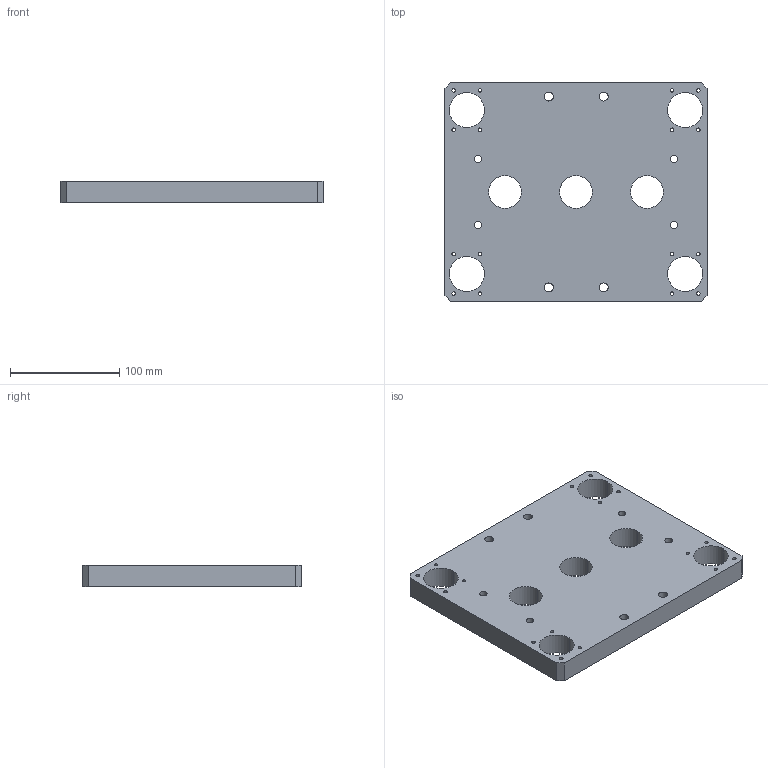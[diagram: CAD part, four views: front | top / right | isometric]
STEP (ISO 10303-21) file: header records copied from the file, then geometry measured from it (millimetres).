
FILE_DESCRIPTION (( 'STEP AP203' ), '1' );
FILE_NAME ('桌面注塑机X动模板.STEP', '2026-06-08T17:32:23', ( 'Windows User' ), ( 'P R C' ), 'SwSTEP 2.0', 'SolidWorks 2025', '' );
FILE_SCHEMA (( 'CONFIG_CONTROL_DESIGN' ));
Length unit declared in the file: millimetre
Products named in the file (1): 桌面注塑机X动模板
Bounding box: 240 x 200 x 20 mm (x, y, z)
Volume: 842544.9 mm3; surface area: 122304.4 mm2
Topology: 1 solids, 1 shells, 72 faces, 210 edges, 140 vertices
Faces by surface type: cylinder 62, plane 10
Entity records: 2659 total; most frequent: DIRECTION 480, CARTESIAN_POINT 423, ORIENTED_EDGE 420, EDGE_CURVE 210, AXIS2_PLACEMENT_3D 197, VERTEX_POINT 140, EDGE_LOOP 134, CIRCLE 124
